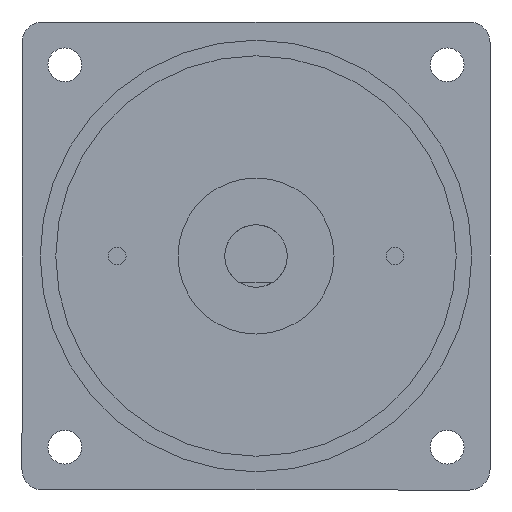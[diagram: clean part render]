
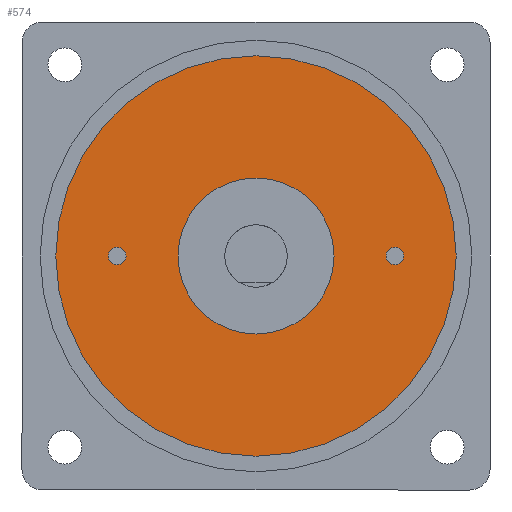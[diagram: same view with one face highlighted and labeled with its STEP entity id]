
A CAD part, front view. The second image highlights one B-rep face of the part: STEP entity #574.
In plain terms, the highlighted planar face has unit normal (0, -1, 0).
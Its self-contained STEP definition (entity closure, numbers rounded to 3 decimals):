
#169=CARTESIAN_POINT('',(28.4,-1.3,0.));
#170=VERTEX_POINT('',#169);
#171=CARTESIAN_POINT('',(26.7,-1.3,0.0));
#172=DIRECTION('',(0.0,1.0,0.0));
#173=DIRECTION('',(-1.0,0.0,0.0));
#174=AXIS2_PLACEMENT_3D('',#171,#172,#173);
#175=CIRCLE('',#174,1.7);
#176=EDGE_CURVE('',#170,#170,#175,.T.);
#206=CARTESIAN_POINT('',(-25.0,-1.3,0.));
#207=VERTEX_POINT('',#206);
#208=CARTESIAN_POINT('',(-26.7,-1.3,0.0));
#209=DIRECTION('',(0.0,1.0,0.0));
#210=DIRECTION('',(-1.0,0.0,0.0));
#211=AXIS2_PLACEMENT_3D('',#208,#209,#210);
#212=CIRCLE('',#211,1.7);
#213=EDGE_CURVE('',#207,#207,#212,.T.);
#541=CARTESIAN_POINT('',(0.0,-1.3,0.0));
#542=DIRECTION('',(0.0,1.0,0.0));
#543=DIRECTION('',(0.0,0.0,1.0));
#544=AXIS2_PLACEMENT_3D('',#541,#542,#543);
#545=PLANE('',#544);
#546=CARTESIAN_POINT('',(38.5,-1.3,0.));
#547=VERTEX_POINT('',#546);
#548=CARTESIAN_POINT('',(0.0,-1.3,0.0));
#549=DIRECTION('',(0.0,-1.0,0.0));
#550=DIRECTION('',(-1.0,0.0,0.0));
#551=AXIS2_PLACEMENT_3D('',#548,#549,#550);
#552=CIRCLE('',#551,38.5);
#553=EDGE_CURVE('',#547,#547,#552,.T.);
#554=ORIENTED_EDGE('',*,*,#553,.T.);
#555=EDGE_LOOP('',(#554));
#556=FACE_OUTER_BOUND('',#555,.T.);
#557=ORIENTED_EDGE('',*,*,#176,.T.);
#558=EDGE_LOOP('',(#557));
#559=FACE_BOUND('',#558,.T.);
#560=ORIENTED_EDGE('',*,*,#213,.T.);
#561=EDGE_LOOP('',(#560));
#562=FACE_BOUND('',#561,.T.);
#563=CARTESIAN_POINT('',(15.0,-1.3,0.));
#564=VERTEX_POINT('',#563);
#565=CARTESIAN_POINT('',(0.0,-1.3,0.0));
#566=DIRECTION('',(0.0,1.0,0.0));
#567=DIRECTION('',(-1.0,0.0,0.0));
#568=AXIS2_PLACEMENT_3D('',#565,#566,#567);
#569=CIRCLE('',#568,15.0);
#570=EDGE_CURVE('',#564,#564,#569,.T.);
#571=ORIENTED_EDGE('',*,*,#570,.T.);
#572=EDGE_LOOP('',(#571));
#573=FACE_BOUND('',#572,.T.);
#574=ADVANCED_FACE('',(#556,#559,#562,#573),#545,.F.);
